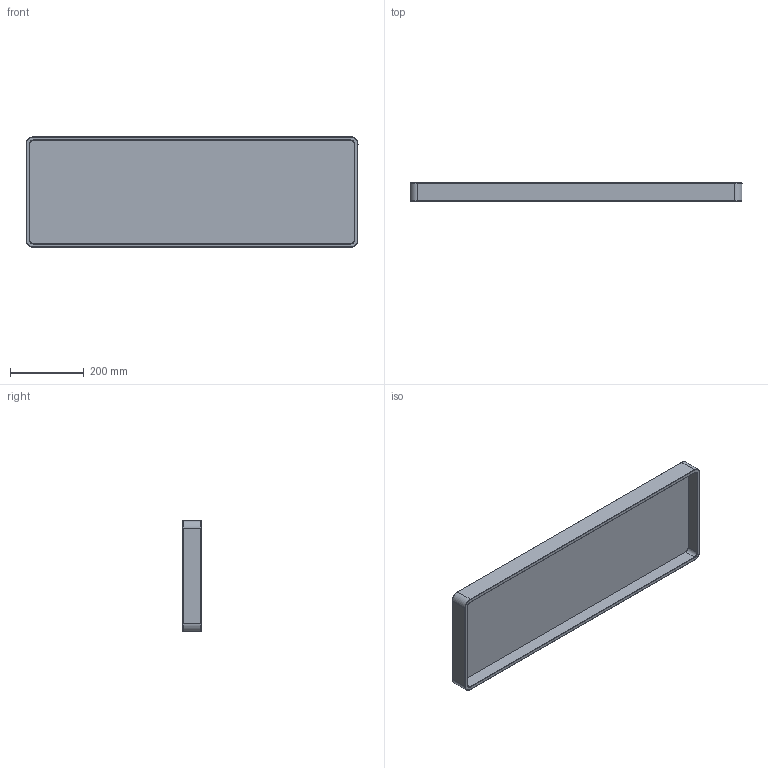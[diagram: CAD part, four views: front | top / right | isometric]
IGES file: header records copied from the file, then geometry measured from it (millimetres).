
Start section: SolidWorks IGES file using analytic representation for surfaces
Global section: file name: D:\3DS EMPRESA\TURIN-P37611-3D\TURIN-P37611-3D.IGS; native system: SolidWorks 2019; preprocessor: SolidWorks 2019; author: Carlos Corella; date: 210715.082500; units: millimetre
Bounding box: 900 x 50 x 300 mm (x, y, z)
Surface area: 745702.3 mm2 (no closed solid volume)
Topology: 0 solids, 0 shells, 60 faces, 440 edges, 440 vertices
Faces by surface type: bspline 32, revolution 28
